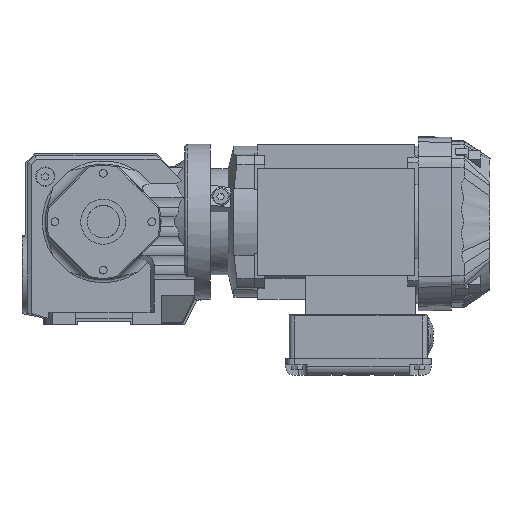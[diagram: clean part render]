
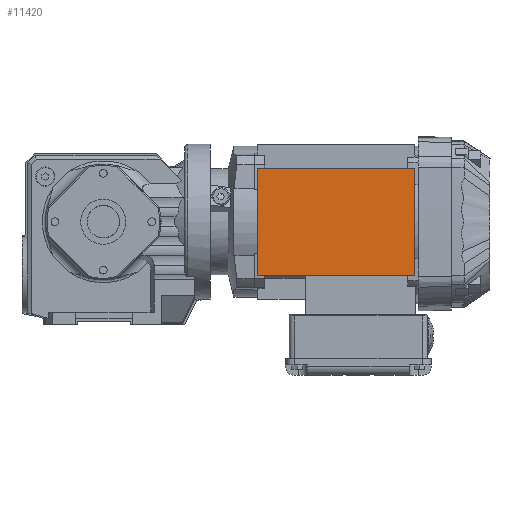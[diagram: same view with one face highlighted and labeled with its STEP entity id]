
A CAD part, front view. The second image highlights one B-rep face of the part: STEP entity #11420.
In plain terms, the highlighted planar face has unit normal (0, -1, 0).
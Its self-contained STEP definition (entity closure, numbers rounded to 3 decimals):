
#544=PLANE('',#12205);
#952=FACE_OUTER_BOUND('',#1604,.T.);
#1604=EDGE_LOOP('',(#8175,#8176,#8177,#8178));
#2339=LINE('',#17498,#3385);
#2342=LINE('',#17504,#3388);
#2343=LINE('',#17506,#3389);
#2344=LINE('',#17507,#3390);
#3385=VECTOR('',#13725,1000.);
#3388=VECTOR('',#13730,1000.);
#3389=VECTOR('',#13731,1000.);
#3390=VECTOR('',#13732,1000.);
#5066=VERTEX_POINT('',#17495);
#5067=VERTEX_POINT('',#17497);
#5069=VERTEX_POINT('',#17503);
#5070=VERTEX_POINT('',#17505);
#6283=EDGE_CURVE('',#5066,#5067,#2339,.T.);
#6286=EDGE_CURVE('',#5069,#5066,#2342,.T.);
#6287=EDGE_CURVE('',#5069,#5070,#2343,.T.);
#6288=EDGE_CURVE('',#5070,#5067,#2344,.T.);
#8175=ORIENTED_EDGE('',*,*,#6283,.F.);
#8176=ORIENTED_EDGE('',*,*,#6286,.F.);
#8177=ORIENTED_EDGE('',*,*,#6287,.T.);
#8178=ORIENTED_EDGE('',*,*,#6288,.T.);
#11420=ADVANCED_FACE('',(#952),#544,.T.);
#12205=AXIS2_PLACEMENT_3D('',#17502,#13728,#13729);
#13725=DIRECTION('',(0.,0.,1.));
#13728=DIRECTION('center_axis',(0.,-1.,0.));
#13729=DIRECTION('ref_axis',(0.,0.,-1.));
#13730=DIRECTION('',(-1.,0.,0.));
#13731=DIRECTION('',(0.,0.,1.));
#13732=DIRECTION('',(-1.,0.,0.));
#17495=CARTESIAN_POINT('',(119.5,-60.,-41.5));
#17497=CARTESIAN_POINT('',(119.5,-60.,41.5));
#17498=CARTESIAN_POINT('',(119.5,-60.,-41.5));
#17502=CARTESIAN_POINT('Origin',(241.5,-60.,-41.5));
#17503=CARTESIAN_POINT('',(241.5,-60.,-41.5));
#17504=CARTESIAN_POINT('',(241.5,-60.,-41.5));
#17505=CARTESIAN_POINT('',(241.5,-60.,41.5));
#17506=CARTESIAN_POINT('',(241.5,-60.,-41.5));
#17507=CARTESIAN_POINT('',(241.5,-60.,41.5));
